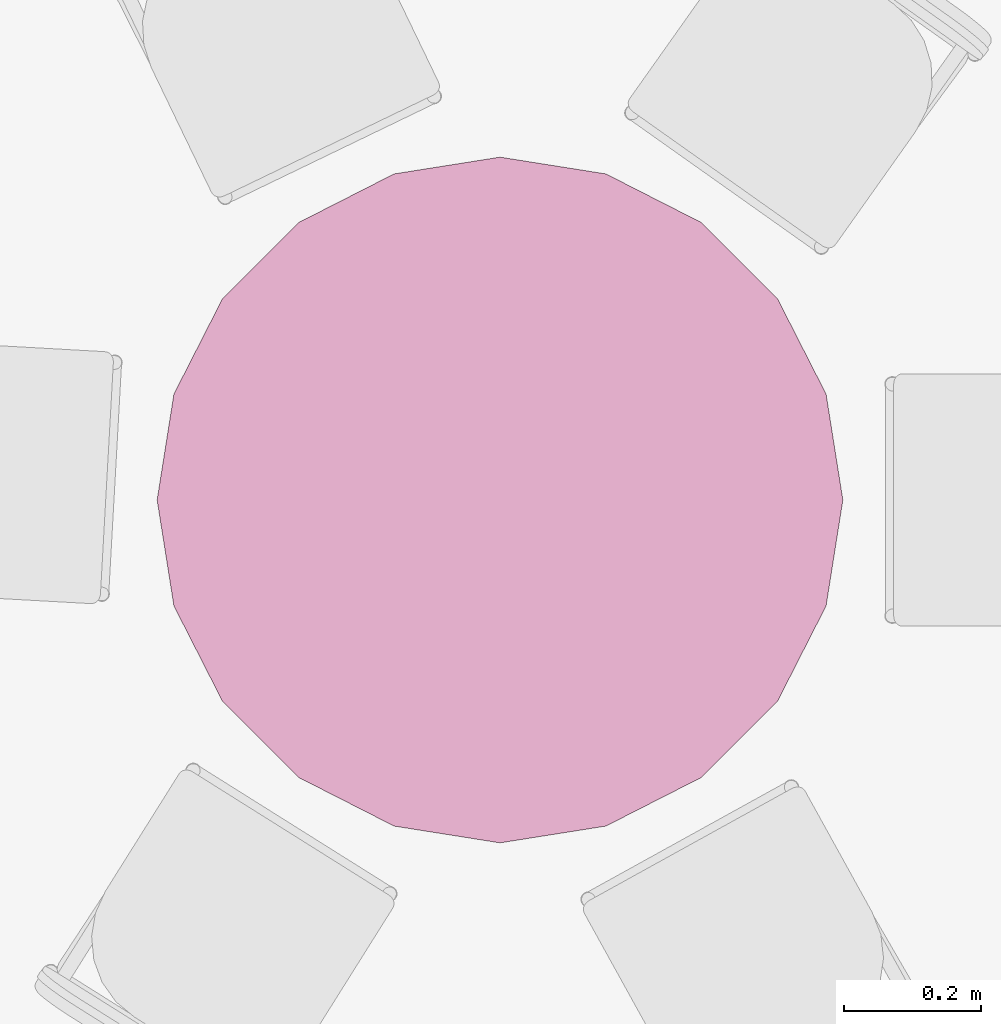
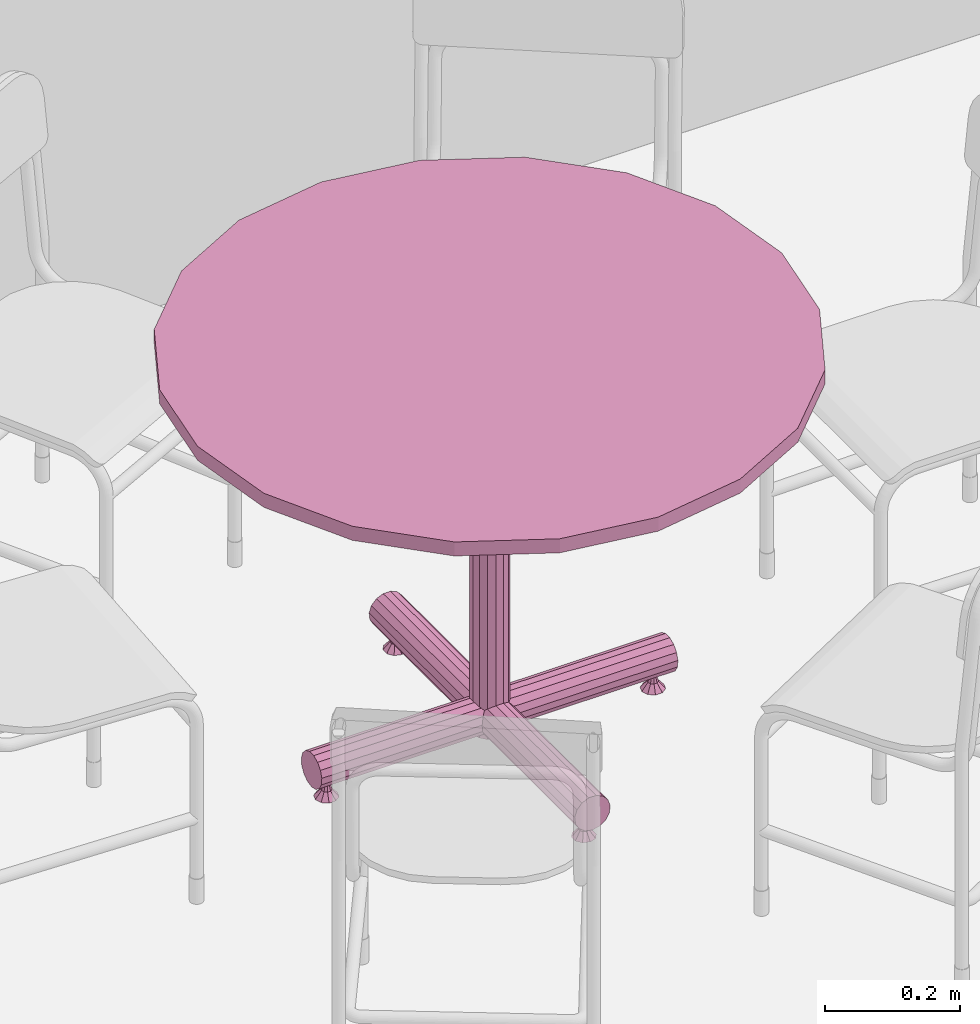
# One storey, part 280 of 301: 1 furnishing.
"""IFC2X3 building model written with IfcOpenShell, lengths in millimetres."""

from ifc_helpers import new_model, entity, si_unit, converted_unit, derived_unit, money_unit, direction, frame, origin_with_axes, place, context, subcontext, project, spatial, open_shell, faceted_brep, surface_model, source, transform, mapped, type_object, element, save


model = new_model("IFC2X3")

# Units and contexts
model_context = context("Model", 3, precision=0.01, world=origin_with_axes(), true_north=direction((0.0, 1.0)))
body_context = subcontext(model_context, "Body", "Model", "MODEL_VIEW")
ifc_project = project(units=[si_unit("LENGTHUNIT", "METRE", prefix="MILLI"), si_unit("AREAUNIT", "SQUARE_METRE"), si_unit("VOLUMEUNIT", "CUBIC_METRE"), converted_unit("PLANEANGLEUNIT", "DEGREE", entity("IfcPlaneAngleMeasure", 0.0174532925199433), si_unit("PLANEANGLEUNIT", "RADIAN"), dimensions=[0, 0, 0, 0, 0, 0, 0]), money_unit("EUR"), converted_unit("TIMEUNIT", "Year", entity("IfcTimeMeasure", 31557600.0), si_unit("TIMEUNIT", "SECOND"), dimensions=[0, 0, 1, 0, 0, 0, 0]), si_unit("MASSUNIT", "GRAM", prefix="KILO"), si_unit("THERMODYNAMICTEMPERATUREUNIT", "DEGREE_CELSIUS"), si_unit("LUMINOUSINTENSITYUNIT", "LUMEN"), si_unit("ENERGYUNIT", "JOULE", prefix="MEGA"), derived_unit("THERMALCONDUCTANCEUNIT", [(si_unit("POWERUNIT", "WATT"), 1), (si_unit("LENGTHUNIT", "METRE"), -1), (si_unit("THERMODYNAMICTEMPERATUREUNIT", "KELVIN"), -1)]), derived_unit("SPECIFICHEATCAPACITYUNIT", [(si_unit("ENERGYUNIT", "JOULE"), 1), (si_unit("MASSUNIT", "GRAM", prefix="KILO"), -1), (si_unit("THERMODYNAMICTEMPERATUREUNIT", "KELVIN"), -1)]), derived_unit("MASSDENSITYUNIT", [(si_unit("MASSUNIT", "GRAM", prefix="KILO"), 1), (si_unit("VOLUMEUNIT", "CUBIC_METRE"), -1)])], contexts=[model_context])

# Site, building, storey
site_placement = place(None, frame((0.0, 0.0, 8650.0), z_axis=(0.0, 0.0, 1.0), x_axis=(1.0, 0.0, 0.0)))
site = spatial("IfcSite", under=ifc_project, at=site_placement, Name="43301:001:0844", CompositionType="ELEMENT")
building_placement = place(site_placement, origin_with_axes())
building = spatial("IfcBuilding", under=site, at=building_placement, Name="Kuressaare Ametikooli tuulikute mehaanikute õppekorpus", CompositionType="ELEMENT")
storey_placement = place(building_placement, origin_with_axes())
storey = spatial("IfcBuildingStorey", under=building, at=storey_placement, Name="1.korrus", CompositionType="ELEMENT", Elevation=0.0)

# Furnishing
furniture_type = type_object("IfcFurnitureType", Name="Round Table 02 27", AssemblyPlace="NOTDEFINED")
shared_shape = source(origin_with_axes(), body_context, "Body", "SurfaceModel", [
    faceted_brep([(294.8117737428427, -11.19730905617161, 0.0), (298.45, 0.0, 0.0), (287.8666666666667, 0.0, 12.7), (286.2496772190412, -4.976581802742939, 12.7), (285.2867737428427, -18.11762663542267, 0.0), (273.5132262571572, -18.11762663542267, 0.0), (263.9882262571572, -11.19730905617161, 0.0), (260.35, 0.0, 0.0), (263.9882262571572, 11.19730905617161, 0.0), (273.5132262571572, 18.11762663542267, 0.0), (285.2867737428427, 18.11762663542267, 0.0), (294.8117737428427, 11.19730905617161, 0.0), (286.2496772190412, 4.976581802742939, 12.7), (282.0163438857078, 8.052278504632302, 12.7), (276.7836561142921, 8.052278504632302, 12.7), (272.5503227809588, 4.976581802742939, 12.7), (270.9333333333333, 0.0, 12.7), (272.5503227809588, -4.976581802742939, 12.7), (276.7836561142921, -8.052278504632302, 12.7), (282.0163438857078, -8.052278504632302, 12.7)], [[[0, 1, 2, 3]], [[0, 4, 5, 6, 7, 8, 9, 10, 11, 1]], [[1, 11, 12, 2]], [[3, 2, 12, 13, 14, 15, 16, 17, 18, 19]], [[4, 0, 3, 19]], [[5, 4, 19, 18]], [[6, 5, 18, 17]], [[7, 6, 17, 16]], [[8, 7, 16, 15]], [[9, 8, 15, 14]], [[10, 9, 14, 13]], [[11, 10, 13, 12]]]),
    faceted_brep([(286.2496772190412, -4.976581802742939, 12.7), (287.8666666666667, 0.0, 12.7), (284.48, 0.0, 25.4), (283.5098063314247, -2.985949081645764, 25.4), (282.0163438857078, -8.052278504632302, 12.7), (276.7836561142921, -8.052278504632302, 12.7), (272.5503227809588, -4.976581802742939, 12.7), (270.9333333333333, 0.0, 12.7), (272.5503227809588, 4.976581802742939, 12.7), (276.7836561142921, 8.052278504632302, 12.7), (282.0163438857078, 8.052278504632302, 12.7), (286.2496772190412, 4.976581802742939, 12.7), (283.5098063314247, 2.985949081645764, 25.4), (280.9698063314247, 4.831367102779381, 25.4), (277.8301936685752, 4.831367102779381, 25.4), (275.2901936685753, 2.985949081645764, 25.4), (274.32, 0.0, 25.4), (275.2901936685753, -2.985949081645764, 25.4), (277.8301936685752, -4.831367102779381, 25.4), (280.9698063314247, -4.831367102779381, 25.4)], [[[0, 1, 2, 3]], [[0, 4, 5, 6, 7, 8, 9, 10, 11, 1]], [[1, 11, 12, 2]], [[3, 2, 12, 13, 14, 15, 16, 17, 18, 19]], [[4, 0, 3, 19]], [[5, 4, 19, 18]], [[6, 5, 18, 17]], [[7, 6, 17, 16]], [[8, 7, 16, 15]], [[9, 8, 15, 14]], [[10, 9, 14, 13]], [[11, 10, 13, 12]]]),
    faceted_brep([(11.19730905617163, 294.8117737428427, 0.0), (0.0, 298.45, 0.0), (0.0, 287.8666666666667, 12.7), (4.976581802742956, 286.2496772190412, 12.7), (18.11762663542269, 285.2867737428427, 0.0), (18.11762663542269, 273.5132262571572, 0.0), (11.19730905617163, 263.9882262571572, 0.0), (0.0, 260.35, 0.0), (-11.1973090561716, 263.9882262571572, 0.0), (-18.11762663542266, 273.5132262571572, 0.0), (-18.11762663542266, 285.2867737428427, 0.0), (-11.19730905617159, 294.8117737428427, 0.0), (-4.976581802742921, 286.2496772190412, 12.7), (-8.052278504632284, 282.0163438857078, 12.7), (-8.052278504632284, 276.7836561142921, 12.7), (-4.976581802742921, 272.5503227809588, 12.7), (0.0, 270.9333333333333, 12.7), (4.976581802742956, 272.5503227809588, 12.7), (8.052278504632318, 276.7836561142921, 12.7), (8.052278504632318, 282.0163438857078, 12.7)], [[[0, 1, 2, 3]], [[0, 4, 5, 6, 7, 8, 9, 10, 11, 1]], [[1, 11, 12, 2]], [[3, 2, 12, 13, 14, 15, 16, 17, 18, 19]], [[4, 0, 3, 19]], [[5, 4, 19, 18]], [[6, 5, 18, 17]], [[7, 6, 17, 16]], [[8, 7, 16, 15]], [[9, 8, 15, 14]], [[10, 9, 14, 13]], [[11, 10, 13, 12]]]),
    faceted_brep([(4.976581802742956, 286.2496772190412, 12.7), (0.0, 287.8666666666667, 12.7), (0.0, 284.48, 25.4), (2.985949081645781, 283.5098063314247, 25.4), (8.052278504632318, 282.0163438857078, 12.7), (8.052278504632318, 276.7836561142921, 12.7), (4.976581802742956, 272.5503227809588, 12.7), (0.0, 270.9333333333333, 12.7), (-4.976581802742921, 272.5503227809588, 12.7), (-8.052278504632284, 276.7836561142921, 12.7), (-8.052278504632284, 282.0163438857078, 12.7), (-4.976581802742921, 286.2496772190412, 12.7), (-2.985949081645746, 283.5098063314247, 25.4), (-4.831367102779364, 280.9698063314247, 25.4), (-4.831367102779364, 277.8301936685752, 25.4), (-2.985949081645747, 275.2901936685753, 25.4), (0.0, 274.32, 25.4), (2.98594908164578, 275.2901936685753, 25.4), (4.831367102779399, 277.8301936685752, 25.4), (4.831367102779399, 280.9698063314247, 25.4)], [[[0, 1, 2, 3]], [[0, 4, 5, 6, 7, 8, 9, 10, 11, 1]], [[1, 11, 12, 2]], [[3, 2, 12, 13, 14, 15, 16, 17, 18, 19]], [[4, 0, 3, 19]], [[5, 4, 19, 18]], [[6, 5, 18, 17]], [[7, 6, 17, 16]], [[8, 7, 16, 15]], [[9, 8, 15, 14]], [[10, 9, 14, 13]], [[11, 10, 13, 12]]]),
    faceted_brep([(-294.8117737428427, 11.19730905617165, 0.0), (-298.45, 0.0, 0.0), (-287.8666666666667, 0.0, 12.7), (-286.2496772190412, 4.976581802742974, 12.7), (-285.2867737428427, 18.11762663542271, 0.0), (-273.5132262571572, 18.11762663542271, 0.0), (-263.9882262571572, 11.19730905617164, 0.0), (-260.35, 0.0, 0.0), (-263.9882262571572, -11.19730905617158, 0.0), (-273.5132262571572, -18.11762663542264, 0.0), (-285.2867737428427, -18.11762663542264, 0.0), (-294.8117737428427, -11.19730905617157, 0.0), (-286.2496772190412, -4.976581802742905, 12.7), (-282.0163438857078, -8.052278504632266, 12.7), (-276.7836561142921, -8.052278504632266, 12.7), (-272.5503227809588, -4.976581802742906, 12.7), (-270.9333333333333, 0.0, 12.7), (-272.5503227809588, 4.976581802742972, 12.7), (-276.7836561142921, 8.052278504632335, 12.7), (-282.0163438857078, 8.052278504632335, 12.7)], [[[0, 1, 2, 3]], [[0, 4, 5, 6, 7, 8, 9, 10, 11, 1]], [[1, 11, 12, 2]], [[3, 2, 12, 13, 14, 15, 16, 17, 18, 19]], [[4, 0, 3, 19]], [[5, 4, 19, 18]], [[6, 5, 18, 17]], [[7, 6, 17, 16]], [[8, 7, 16, 15]], [[9, 8, 15, 14]], [[10, 9, 14, 13]], [[11, 10, 13, 12]]]),
    faceted_brep([(-286.2496772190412, 4.976581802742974, 12.7), (-287.8666666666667, 0.0, 12.7), (-284.48, 0.0, 25.4), (-283.5098063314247, 2.985949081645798, 25.4), (-282.0163438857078, 8.052278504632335, 12.7), (-276.7836561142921, 8.052278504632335, 12.7), (-272.5503227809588, 4.976581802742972, 12.7), (-270.9333333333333, 0.0, 12.7), (-272.5503227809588, -4.976581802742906, 12.7), (-276.7836561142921, -8.052278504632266, 12.7), (-282.0163438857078, -8.052278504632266, 12.7), (-286.2496772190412, -4.976581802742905, 12.7), (-283.5098063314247, -2.985949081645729, 25.4), (-280.9698063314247, -4.831367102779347, 25.4), (-277.8301936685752, -4.831367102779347, 25.4), (-275.2901936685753, -2.98594908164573, 25.4), (-274.32, 0.0, 25.4), (-275.2901936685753, 2.985949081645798, 25.4), (-277.8301936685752, 4.831367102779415, 25.4), (-280.9698063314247, 4.831367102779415, 25.4)], [[[0, 1, 2, 3]], [[0, 4, 5, 6, 7, 8, 9, 10, 11, 1]], [[1, 11, 12, 2]], [[3, 2, 12, 13, 14, 15, 16, 17, 18, 19]], [[4, 0, 3, 19]], [[5, 4, 19, 18]], [[6, 5, 18, 17]], [[7, 6, 17, 16]], [[8, 7, 16, 15]], [[9, 8, 15, 14]], [[10, 9, 14, 13]], [[11, 10, 13, 12]]]),
    faceted_brep([(-11.19730905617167, -294.8117737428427, 0.0), (0.0, -298.45, 0.0), (0.0, -287.8666666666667, 12.7), (-4.976581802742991, -286.2496772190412, 12.7), (-18.11762663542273, -285.2867737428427, 0.0), (-18.11762663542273, -273.5132262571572, 0.0), (-11.19730905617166, -263.9882262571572, 0.0), (0.0, -260.35, 0.0), (11.19730905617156, -263.9882262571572, 0.0), (18.11762663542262, -273.5132262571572, 0.0), (18.11762663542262, -285.2867737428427, 0.0), (11.19730905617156, -294.8117737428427, 0.0), (4.976581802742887, -286.2496772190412, 12.7), (8.052278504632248, -282.0163438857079, 12.7), (8.052278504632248, -276.7836561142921, 12.7), (4.976581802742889, -272.5503227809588, 12.7), (0.0, -270.9333333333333, 12.7), (-4.976581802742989, -272.5503227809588, 12.7), (-8.052278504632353, -276.7836561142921, 12.7), (-8.052278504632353, -282.0163438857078, 12.7)], [[[0, 1, 2, 3]], [[0, 4, 5, 6, 7, 8, 9, 10, 11, 1]], [[1, 11, 12, 2]], [[3, 2, 12, 13, 14, 15, 16, 17, 18, 19]], [[4, 0, 3, 19]], [[5, 4, 19, 18]], [[6, 5, 18, 17]], [[7, 6, 17, 16]], [[8, 7, 16, 15]], [[9, 8, 15, 14]], [[10, 9, 14, 13]], [[11, 10, 13, 12]]]),
    faceted_brep([(-4.976581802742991, -286.2496772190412, 12.7), (0.0, -287.8666666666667, 12.7), (0.0, -284.48, 25.4), (-2.985949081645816, -283.5098063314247, 25.4), (-8.052278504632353, -282.0163438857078, 12.7), (-8.052278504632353, -276.7836561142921, 12.7), (-4.976581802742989, -272.5503227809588, 12.7), (0.0, -270.9333333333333, 12.7), (4.976581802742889, -272.5503227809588, 12.7), (8.052278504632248, -276.7836561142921, 12.7), (8.052278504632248, -282.0163438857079, 12.7), (4.976581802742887, -286.2496772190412, 12.7), (2.985949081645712, -283.5098063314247, 25.4), (4.83136710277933, -280.9698063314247, 25.4), (4.83136710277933, -277.8301936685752, 25.4), (2.985949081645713, -275.2901936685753, 25.4), (0.0, -274.32, 25.4), (-2.985949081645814, -275.2901936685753, 25.4), (-4.831367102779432, -277.8301936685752, 25.4), (-4.831367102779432, -280.9698063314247, 25.4)], [[[0, 1, 2, 3]], [[0, 4, 5, 6, 7, 8, 9, 10, 11, 1]], [[1, 11, 12, 2]], [[3, 2, 12, 13, 14, 15, 16, 17, 18, 19]], [[4, 0, 3, 19]], [[5, 4, 19, 18]], [[6, 5, 18, 17]], [[7, 6, 17, 16]], [[8, 7, 16, 15]], [[9, 8, 15, 14]], [[10, 9, 14, 13]], [[11, 10, 13, 12]]]),
    surface_model("IfcShellBasedSurfaceModel", [(27.84486554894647, -12.3973328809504, 28.03513445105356), (30.48, 0.0, 25.40000000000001), (304.8, 0.0, 25.40000000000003), (304.8, -12.3973328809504, 28.03513445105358), (27.84486554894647, 12.39733288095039, 28.03513445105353), (304.8, 12.39733288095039, 28.03513445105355), (304.8, 22.65105428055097, 35.48489911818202), (304.8, 28.98820261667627, 46.46116201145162), (304.8, 30.31302737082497, 59.06602756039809), (304.8, 26.39645430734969, 71.12), (304.8, 17.91569448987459, 80.5388379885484), (304.8, 6.337148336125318, 85.6939388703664), (304.8, -6.337148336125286, 85.6939388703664), (304.8, -17.91569448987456, 80.53883798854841), (304.8, -26.39645430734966, 71.12000000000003), (304.8, -30.31302737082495, 59.06602756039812), (304.8, -28.98820261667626, 46.46116201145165), (304.8, -22.65105428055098, 35.48489911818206), (21.34442362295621, -21.3444236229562, 34.53557637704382), (22.65105428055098, -22.65105428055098, 35.48489911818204), (21.34442362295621, 21.34442362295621, 34.5355763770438), (22.65105428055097, 22.65105428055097, 35.48489911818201), (28.98820261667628, 28.98820261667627, 46.4611620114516), (30.31302737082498, 30.31302737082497, 59.06602756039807), (26.39645430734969, 26.39645430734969, 71.11999999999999), (21.1105696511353, 21.1105696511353, 76.99056965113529), (24.65883798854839, 17.91569448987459, 80.53883798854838), (29.81393887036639, 6.337148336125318, 85.69393887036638), (29.8139388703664, -6.337148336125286, 85.69393887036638), (24.65883798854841, -17.91569448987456, 80.53883798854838), (21.1105696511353, -21.1105696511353, 76.99056965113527), (26.39645430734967, -26.39645430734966, 71.12), (30.31302737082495, -30.31302737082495, 59.0660275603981), (28.98820261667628, -28.98820261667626, 46.46116201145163)], [open_shell([[[0, 1, 2, 3]], [[1, 4, 5, 2]], [[3, 2, 5, 6, 7, 8, 9, 10, 11, 12, 13, 14, 15, 16, 17]], [[18, 0, 3, 17, 19]], [[4, 20, 21, 6, 5]], [[22, 7, 6, 21]], [[23, 8, 7, 22]], [[24, 9, 8, 23]], [[25, 26, 10, 9, 24]], [[26, 27, 11, 10]], [[27, 28, 12, 11]], [[28, 29, 13, 12]], [[29, 30, 31, 14, 13]], [[32, 15, 14, 31]], [[33, 16, 15, 32]], [[19, 17, 16, 33]]])]),
    surface_model("IfcShellBasedSurfaceModel", [(12.3973328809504, 27.84486554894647, 28.03513445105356), (0.0, 30.48, 25.40000000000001), (0.0, 304.8, 25.40000000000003), (12.39733288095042, 304.8, 28.03513445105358), (-12.39733288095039, 27.84486554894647, 28.03513445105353), (-12.39733288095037, 304.8, 28.03513445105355), (-22.65105428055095, 304.8, 35.48489911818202), (-28.98820261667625, 304.8, 46.46116201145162), (-30.31302737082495, 304.8, 59.06602756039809), (-26.39645430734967, 304.8, 71.12), (-17.91569448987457, 304.8, 80.5388379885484), (-6.337148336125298, 304.8, 85.6939388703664), (6.337148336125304, 304.8, 85.6939388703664), (17.91569448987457, 304.8, 80.53883798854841), (26.39645430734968, 304.8, 71.12000000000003), (30.31302737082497, 304.8, 59.06602756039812), (28.98820261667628, 304.8, 46.46116201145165), (22.65105428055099, 304.8, 35.48489911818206), (21.3444236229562, 21.34442362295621, 34.53557637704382), (22.65105428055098, 22.65105428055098, 35.48489911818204), (-21.34442362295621, 21.34442362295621, 34.5355763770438), (-22.65105428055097, 22.65105428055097, 35.48489911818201), (-28.98820261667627, 28.98820261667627, 46.4611620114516), (-30.31302737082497, 30.31302737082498, 59.06602756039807), (-26.39645430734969, 26.39645430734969, 71.11999999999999), (-21.1105696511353, 21.1105696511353, 76.99056965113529), (-17.91569448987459, 24.65883798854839, 80.53883798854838), (-6.337148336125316, 29.81393887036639, 85.69393887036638), (6.337148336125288, 29.8139388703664, 85.69393887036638), (17.91569448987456, 24.65883798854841, 80.53883798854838), (21.1105696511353, 21.1105696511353, 76.99056965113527), (26.39645430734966, 26.39645430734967, 71.12), (30.31302737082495, 30.31302737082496, 59.0660275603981), (28.98820261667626, 28.98820261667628, 46.46116201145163)], [open_shell([[[0, 1, 2, 3]], [[1, 4, 5, 2]], [[3, 2, 5, 6, 7, 8, 9, 10, 11, 12, 13, 14, 15, 16, 17]], [[18, 0, 3, 17, 19]], [[4, 20, 21, 6, 5]], [[22, 7, 6, 21]], [[23, 8, 7, 22]], [[24, 9, 8, 23]], [[25, 26, 10, 9, 24]], [[26, 27, 11, 10]], [[27, 28, 12, 11]], [[28, 29, 13, 12]], [[29, 30, 31, 14, 13]], [[32, 15, 14, 31]], [[33, 16, 15, 32]], [[19, 17, 16, 33]]])]),
    surface_model("IfcShellBasedSurfaceModel", [(-27.84486554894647, 12.39733288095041, 28.03513445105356), (-30.48, 0.0, 25.40000000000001), (-304.8, 0.0, 25.40000000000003), (-304.8, 12.39733288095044, 28.03513445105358), (-27.84486554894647, -12.39733288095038, 28.03513445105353), (-304.8, -12.39733288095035, 28.03513445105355), (-304.8, -22.65105428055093, 35.48489911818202), (-304.8, -28.98820261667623, 46.46116201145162), (-304.8, -30.31302737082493, 59.06602756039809), (-304.8, -26.39645430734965, 71.12), (-304.8, -17.91569448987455, 80.5388379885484), (-304.8, -6.337148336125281, 85.6939388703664), (-304.8, 6.337148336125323, 85.6939388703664), (-304.8, 17.9156944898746, 80.53883798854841), (-304.8, 26.3964543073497, 71.12000000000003), (-304.8, 30.31302737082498, 59.06602756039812), (-304.8, 28.9882026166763, 46.46116201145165), (-304.8, 22.65105428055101, 35.48489911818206), (-21.3444236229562, 21.34442362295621, 34.53557637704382), (-22.65105428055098, 22.65105428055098, 35.48489911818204), (-21.34442362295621, -21.3444236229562, 34.5355763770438), (-22.65105428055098, -22.65105428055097, 35.48489911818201), (-28.98820261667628, -28.98820261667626, 46.4611620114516), (-30.31302737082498, -30.31302737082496, 59.06602756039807), (-26.3964543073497, -26.39645430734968, 71.11999999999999), (-21.11056965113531, -21.11056965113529, 76.99056965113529), (-24.65883798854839, -17.91569448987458, 80.53883798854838), (-29.81393887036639, -6.337148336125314, 85.69393887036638), (-29.8139388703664, 6.337148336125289, 85.69393887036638), (-24.65883798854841, 17.91569448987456, 80.53883798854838), (-21.1105696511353, 21.1105696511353, 76.99056965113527), (-26.39645430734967, 26.39645430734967, 71.12), (-30.31302737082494, 30.31302737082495, 59.0660275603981), (-28.98820261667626, 28.98820261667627, 46.46116201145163)], [open_shell([[[0, 1, 2, 3]], [[1, 4, 5, 2]], [[3, 2, 5, 6, 7, 8, 9, 10, 11, 12, 13, 14, 15, 16, 17]], [[18, 0, 3, 17, 19]], [[4, 20, 21, 6, 5]], [[22, 7, 6, 21]], [[23, 8, 7, 22]], [[24, 9, 8, 23]], [[25, 26, 10, 9, 24]], [[26, 27, 11, 10]], [[27, 28, 12, 11]], [[28, 29, 13, 12]], [[29, 30, 31, 14, 13]], [[32, 15, 14, 31]], [[33, 16, 15, 32]], [[19, 17, 16, 33]]])]),
    surface_model("IfcShellBasedSurfaceModel", [(-12.39733288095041, -27.84486554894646, 28.03513445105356), (0.0, -30.48, 25.40000000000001), (0.0, -304.8, 25.40000000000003), (-12.39733288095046, -304.8, 28.03513445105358), (12.39733288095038, -27.84486554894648, 28.03513445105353), (12.39733288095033, -304.8, 28.03513445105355), (22.65105428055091, -304.8, 35.48489911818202), (28.98820261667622, -304.8, 46.46116201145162), (30.31302737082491, -304.8, 59.06602756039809), (26.39645430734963, -304.8, 71.12), (17.91569448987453, -304.8, 80.5388379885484), (6.337148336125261, -304.8, 85.6939388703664), (-6.337148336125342, -304.8, 85.6939388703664), (-17.91569448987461, -304.8, 80.53883798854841), (-26.39645430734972, -304.8, 71.12000000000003), (-30.313027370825, -304.8, 59.06602756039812), (-28.98820261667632, -304.8, 46.46116201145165), (-22.65105428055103, -304.8, 35.48489911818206), (-21.34442362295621, -21.3444236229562, 34.53557637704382), (-22.65105428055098, -22.65105428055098, 35.48489911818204), (21.3444236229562, -21.34442362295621, 34.5355763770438), (22.65105428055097, -22.65105428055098, 35.48489911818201), (28.98820261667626, -28.98820261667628, 46.4611620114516), (30.31302737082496, -30.31302737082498, 59.06602756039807), (26.39645430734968, -26.3964543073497, 71.11999999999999), (21.11056965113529, -21.11056965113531, 76.99056965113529), (17.91569448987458, -24.65883798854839, 80.53883798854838), (6.337148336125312, -29.81393887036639, 85.69393887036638), (-6.33714833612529, -29.8139388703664, 85.69393887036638), (-17.91569448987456, -24.65883798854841, 80.53883798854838), (-21.1105696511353, -21.1105696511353, 76.99056965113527), (-26.39645430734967, -26.39645430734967, 71.12), (-30.31302737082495, -30.31302737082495, 59.0660275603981), (-28.98820261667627, -28.98820261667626, 46.46116201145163)], [open_shell([[[0, 1, 2, 3]], [[1, 4, 5, 2]], [[3, 2, 5, 6, 7, 8, 9, 10, 11, 12, 13, 14, 15, 16, 17]], [[18, 0, 3, 17, 19]], [[4, 20, 21, 6, 5]], [[22, 7, 6, 21]], [[23, 8, 7, 22]], [[24, 9, 8, 23]], [[25, 26, 10, 9, 24]], [[26, 27, 11, 10]], [[27, 28, 12, 11]], [[28, 29, 13, 12]], [[29, 30, 31, 14, 13]], [[32, 15, 14, 31]], [[33, 16, 15, 32]], [[19, 17, 16, 33]]])]),
    faceted_brep([(27.84486554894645, -12.3973328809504, 25.4), (20.39510088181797, -22.65105428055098, 25.4), (9.418837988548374, -28.98820261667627, 25.4), (-3.186027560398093, -30.31302737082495, 25.4), (-15.24000000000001, -26.39645430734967, 25.4), (-24.65883798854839, -17.91569448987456, 25.4), (-29.81393887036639, -6.337148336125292, 25.4), (-29.81393887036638, 6.337148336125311, 25.4), (-24.65883798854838, 17.91569448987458, 25.4), (-15.23999999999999, 26.39645430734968, 25.4), (-3.186027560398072, 30.31302737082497, 25.4), (9.418837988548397, 28.98820261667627, 25.4), (20.39510088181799, 22.65105428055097, 25.4), (27.84486554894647, 12.39733288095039, 25.4), (30.48, 0.0, 25.4), (27.84486554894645, -12.3973328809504, 684.6), (20.39510088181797, -22.65105428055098, 684.6), (9.418837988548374, -28.98820261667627, 684.6), (-3.186027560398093, -30.31302737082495, 684.6), (-15.24000000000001, -26.39645430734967, 684.6), (-24.65883798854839, -17.91569448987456, 684.6), (-29.81393887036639, -6.337148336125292, 684.6), (-29.81393887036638, 6.337148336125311, 684.6), (-24.65883798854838, 17.91569448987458, 684.6), (-15.23999999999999, 26.39645430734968, 684.6), (-3.186027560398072, 30.31302737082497, 684.6), (9.418837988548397, 28.98820261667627, 684.6), (20.39510088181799, 22.65105428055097, 684.6), (27.84486554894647, 12.39733288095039, 684.6), (30.48, 0.0, 684.6)], [[[0, 1, 2, 3, 4, 5, 6, 7, 8, 9, 10, 11, 12, 13, 14]], [[1, 0, 15, 16]], [[2, 1, 16, 17]], [[3, 2, 17, 18]], [[4, 3, 18, 19]], [[5, 4, 19, 20]], [[6, 5, 20, 21]], [[7, 6, 21, 22]], [[8, 7, 22, 23]], [[9, 8, 23, 24]], [[10, 9, 24, 25]], [[11, 10, 25, 26]], [[12, 11, 26, 27]], [[13, 12, 27, 28]], [[14, 13, 28, 29]], [[0, 14, 29, 15]], [[15, 29, 28, 27, 26, 25, 24, 23, 22, 21, 20, 19, 18, 17, 16]]]),
    faceted_brep([(475.5282581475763, -154.5084971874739, 684.6), (404.5084971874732, -293.8926261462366, 684.6), (293.8926261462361, -404.5084971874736, 684.6), (154.5084971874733, -475.5282581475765, 684.6), (0.0, -499.9999999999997, 684.6), (-154.5084971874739, -475.5282581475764, 684.6), (-293.8926261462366, -404.5084971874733, 684.6), (-404.5084971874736, -293.8926261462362, 684.6), (-475.5282581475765, -154.5084971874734, 684.6), (-499.9999999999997, 0.0, 684.6), (-475.5282581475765, 154.5084971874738, 684.6), (-404.5084971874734, 293.8926261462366, 684.6), (-293.8926261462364, 404.5084971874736, 684.6), (-154.5084971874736, 475.5282581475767, 684.6), (0.0, 499.9999999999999, 684.6), (154.5084971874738, 475.5282581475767, 684.6), (293.8926261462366, 404.5084971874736, 684.6), (404.5084971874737, 293.8926261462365, 684.6), (475.5282581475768, 154.5084971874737, 684.6), (500.0, 0.0, 684.6), (475.5282581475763, -154.5084971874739, 710.0), (404.5084971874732, -293.8926261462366, 710.0), (293.8926261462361, -404.5084971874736, 710.0), (154.5084971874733, -475.5282581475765, 710.0), (0.0, -499.9999999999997, 710.0), (-154.5084971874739, -475.5282581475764, 710.0), (-293.8926261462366, -404.5084971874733, 710.0), (-404.5084971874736, -293.8926261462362, 710.0), (-475.5282581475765, -154.5084971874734, 710.0), (-499.9999999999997, 0.0, 710.0), (-475.5282581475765, 154.5084971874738, 710.0), (-404.5084971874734, 293.8926261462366, 710.0), (-293.8926261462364, 404.5084971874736, 710.0), (-154.5084971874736, 475.5282581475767, 710.0), (0.0, 499.9999999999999, 710.0), (154.5084971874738, 475.5282581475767, 710.0), (293.8926261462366, 404.5084971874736, 710.0), (404.5084971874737, 293.8926261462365, 710.0), (475.5282581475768, 154.5084971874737, 710.0), (500.0, 0.0, 710.0)], [[[0, 1, 2, 3, 4, 5, 6, 7, 8, 9, 10, 11, 12, 13, 14, 15, 16, 17, 18, 19]], [[1, 0, 20, 21]], [[2, 1, 21, 22]], [[3, 2, 22, 23]], [[4, 3, 23, 24]], [[5, 4, 24, 25]], [[6, 5, 25, 26]], [[7, 6, 26, 27]], [[8, 7, 27, 28]], [[9, 8, 28, 29]], [[10, 9, 29, 30]], [[11, 10, 30, 31]], [[12, 11, 31, 32]], [[13, 12, 32, 33]], [[14, 13, 33, 34]], [[15, 14, 34, 35]], [[16, 15, 35, 36]], [[17, 16, 36, 37]], [[18, 17, 37, 38]], [[19, 18, 38, 39]], [[0, 19, 39, 20]], [[20, 39, 38, 37, 36, 35, 34, 33, 32, 31, 30, 29, 28, 27, 26, 25, 24, 23, 22, 21]]]),
])
furnishing_placement = place(storey_placement, frame((130642.4030070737, 27023.41655496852, 0.0), z_axis=(0.0, 0.0, 1.0), x_axis=(0.0, 1.0, 0.0)))
element("IfcFurnishingElement", 1, at=furnishing_placement, inside=storey, type_object=furniture_type, Name="L1", context=body_context, shape_type="MappedRepresentation", body=[
    mapped(shared_shape, transform((0.0, 0.0, 0.0))),
])

save(model, "model.ifc")
